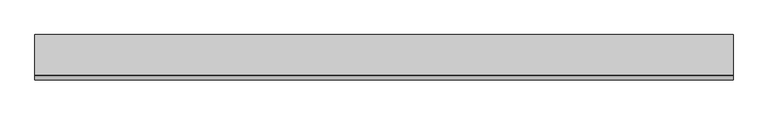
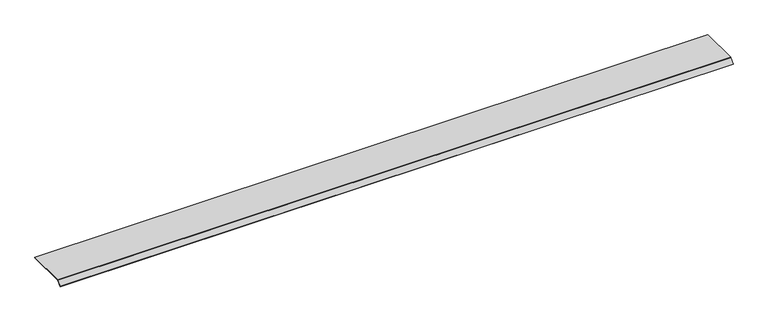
"""IFC4 building model written with IfcOpenShell, lengths in millimetres: proxy geometry, Electrical_Installation_Hager_Blank-Cover-400mm-Double-Sided-Extended-100-Height-40mm : Electrical_Installation_Hager_Blank-Cover-400mm-Double-Sided-Extended-100-Height-40mm."""

from ifc_helpers import new_model, si_unit, point, frame, frame_2d, origin, place, context, project, spatial, polyline, circle_curve, trimmed, segment, composite_curve, outline, extrude, source, transform, mapped, element, save


def electrical_fixtures_a6c5e3de(model_context):
    return source(origin(), model_context, "Body", "SweptSolid", [
        extrude(outline(composite_curve([segment(polyline([(226.4819778, 25.5), (226.4819778, 22.5), (-124.8229541, 22.5)]), True, "CONTINUOUS"), segment(trimmed(circle_curve(frame_2d((-124.8229541, 21.0725733)), 1.4274267), [point((-124.8229541, 22.5))], [point((-125.8322972, 22.0819164))], True, "CARTESIAN"), True, "CONTINUOUS"), segment(polyline([(-125.8322972, 22.0819164), (-162.91729, -15.0030764), (-165.0386103, -12.8817561), (-127.8206472, 24.336207)]), True, "CONTINUOUS"), segment(trimmed(circle_curve(frame_2d((-125.0110025, 21.5265623)), 3.9734377), [point((-127.8206472, 24.336207))], [point((-125.0110025, 25.5))], False, "CARTESIAN"), True, "CONTINUOUS"), segment(polyline([(-125.0110025, 25.5), (226.4819778, 25.5)]), True, "CONTINUOUS")], self_intersect=False)), frame((0.0, 0.0, 0.0), z_axis=(1.0, 0.0, 0.0), x_axis=(0.0, 1.0, 0.0)), (0.0, 0.0, 1.0), 6011.6956759),
    ])


if __name__ == "__main__":
    model = new_model("IFC4")
    model_context = context("Model", 3, world=origin())
    ifc_project = project(units=[si_unit("LENGTHUNIT", "METRE", prefix="MILLI")], contexts=[model_context])
    site = spatial("IfcSite", under=ifc_project)
    building = spatial("IfcBuilding", under=site)
    placement = place(None, origin())
    electrical_fixtures_shape = electrical_fixtures_a6c5e3de(model_context)
    element("IfcBuildingElementProxy", 1, Name="Electrical_Installation_Hager_Blank-Cover-400mm-Double-Sided-Extended-100-Height-40mm : Electrical_Installation_Hager_Blank-Cover-400mm-Double-Sided-Extended-100-Height-40mm", ObjectType="Electrical_Installation_Hager_Blank-Cover-400mm-Double-Sided-Extended-100-Height-40mm : Electrical_Installation_Hager_Blank-Cover-400mm-Double-Sided-Extended-100-Height-40mm", at=placement, inside=building, context=model_context, shape_type="MappedRepresentation", body=[
        mapped(electrical_fixtures_shape, transform((0.0, 0.0, 0.0), x_axis=(1.0, 0.0, 0.0), y_axis=(0.0, 1.0, 0.0), z_axis=(0.0, 0.0, 1.0))),
    ])
    save(model, "model.ifc")
